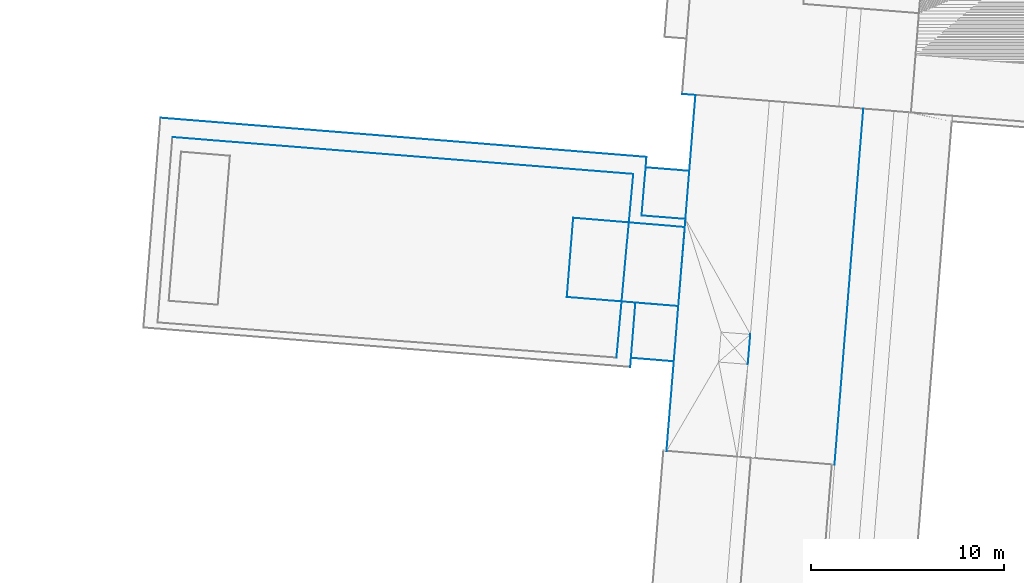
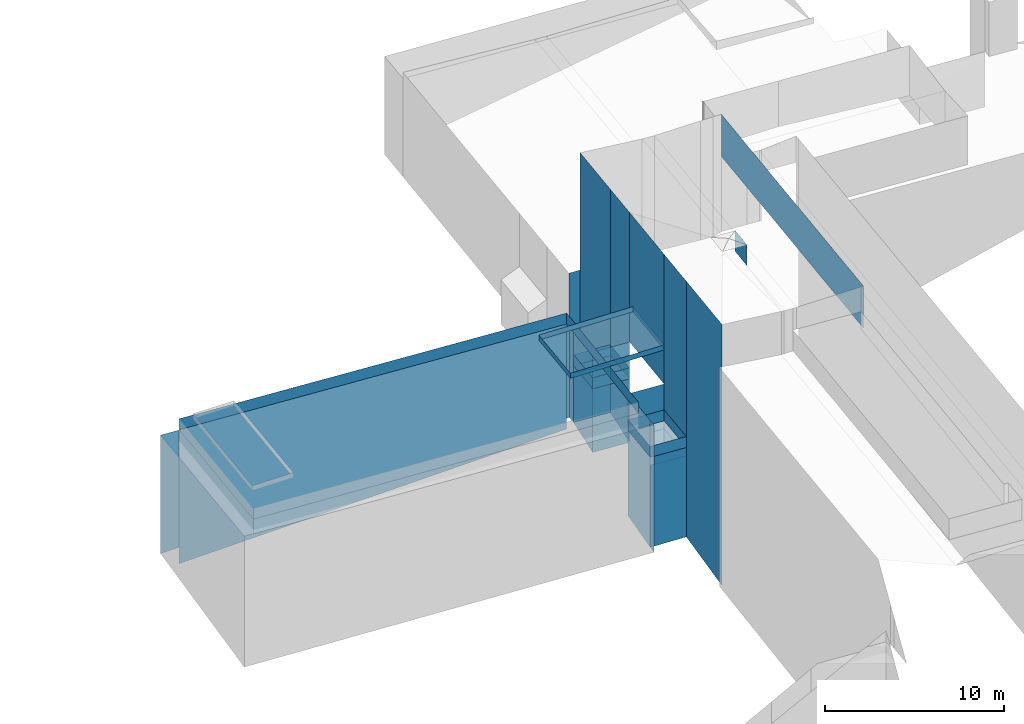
# Not in any storey, part 77 of 136: 54 walls.
"""IFC4 building model written with IfcOpenShell, lengths in metres."""

import ifcopenshell
import ifcopenshell.guid

model = None  # the IFC model being written
_history = None  # IfcOwnerHistory: only IFC2X3 demands one
_inside = {}  # id of a spatial element -> (the spatial element, [elements in it])
_under = {}  # id of a project, library or spatial element -> (it, [spatial elements below it])
_declared = {}  # id of a project -> (the project, [libraries it declares])
_typed = {}  # id of a type object -> (the type object, [elements of that type])
_made_of = {}  # id of a material, layer set ... -> (it, [elements and type objects made of it])


def new_model(schema):
    """Start an empty IFC model of exactly this schema.

    Asked for "IFC4X3", IfcOpenShell would pick the latest addendum, in which some entities
    have other attributes; the version numbers below select the first issue.
    IFC2X3 requires an IfcOwnerHistory on every rooted entity: one is made here for all.
    """
    global model, _history
    if schema == "IFC4X3":
        model = ifcopenshell.file(schema_version=(4, 3, 0, 0))
    else:
        model = ifcopenshell.file(schema=schema)
    _inside.clear()
    _under.clear()
    _declared.clear()
    _typed.clear()
    _made_of.clear()
    _history = None
    if model.schema == "IFC2X3":
        org = make("IfcOrganization", Name="unknown")
        user = make(
            "IfcPersonAndOrganization",
            ThePerson=make("IfcPerson", FamilyName="unknown"),
            TheOrganization=org,
        )
        app = make(
            "IfcApplication",
            ApplicationDeveloper=org,
            Version="unknown",
            ApplicationFullName="unknown",
            ApplicationIdentifier="unknown",
        )
        _history = make(
            "IfcOwnerHistory",
            OwningUser=user,
            OwningApplication=app,
            ChangeAction="ADDED",
            CreationDate=0,
        )
    return model


def make(cls, **values):
    """One entity of the class cls with the attributes given. An attribute that is None is left unset."""
    return model.create_entity(
        cls, **{name: value for name, value in values.items() if value is not None}
    )


def entity(cls, *values):
    """Any entity or typed value of the class cls, its attributes in the order of the schema. None: left unset."""
    e = model.create_entity(cls)
    for i, value in enumerate(values):
        if value is not None:
            e[i] = value
    return e


def rooted(cls, **values):
    """An entity with a GlobalId (a new one), such as an element, a storey or a relation."""
    return make(cls, GlobalId=ifcopenshell.guid.new(), OwnerHistory=_history, **values)


def si_unit(unit_type, name, prefix=None):
    """IfcSIUnit, for example si_unit("LENGTHUNIT", "METRE", prefix="MILLI")."""
    return make("IfcSIUnit", UnitType=unit_type, Prefix=prefix, Name=name)


def converted_unit(unit_type, name, factor, base, dimensions=None, offset=None):
    """IfcConversionBasedUnit, such as the inch: factor (a typed value) times the base unit."""
    return make(
        "IfcConversionBasedUnit"
        if offset is None
        else "IfcConversionBasedUnitWithOffset",
        ConversionOffset=offset,
        Dimensions=None
        if dimensions is None
        else entity("IfcDimensionalExponents", *dimensions),
        UnitType=unit_type,
        Name=name,
        ConversionFactor=make(
            "IfcMeasureWithUnit", ValueComponent=factor, UnitComponent=base
        ),
    )


def assignment(units):
    """IfcUnitAssignment: the units of a project."""
    return None if units is None else make("IfcUnitAssignment", Units=units)


def point(xyz):
    """IfcCartesianPoint."""
    return None if xyz is None else make("IfcCartesianPoint", Coordinates=xyz)


def direction(xyz):
    """IfcDirection."""
    return None if xyz is None else make("IfcDirection", DirectionRatios=xyz)


def frame(location, z_axis=None, x_axis=None):
    """IfcAxis2Placement3D, a coordinate frame: its origin and axes. An axis left out is left unset."""
    return make(
        "IfcAxis2Placement3D",
        Location=point(location),
        Axis=direction(z_axis),
        RefDirection=direction(x_axis),
    )


def origin():
    """The frame at (0, 0, 0) with its axes left unset."""
    return frame((0.0, 0.0, 0.0))


def place(relative_to, where):
    """IfcLocalPlacement: puts the frame where relative to a parent placement (None: the world)."""
    return make(
        "IfcLocalPlacement", PlacementRelTo=relative_to, RelativePlacement=where
    )


def context(
    kind, dimensions, precision=None, world=None, true_north=None, identifier=None
):
    """IfcGeometricRepresentationContext, for example the 3D "Model" context."""
    return make(
        "IfcGeometricRepresentationContext",
        ContextIdentifier=identifier,
        ContextType=kind,
        CoordinateSpaceDimension=dimensions,
        Precision=precision,
        WorldCoordinateSystem=world,
        TrueNorth=true_north,
    )


def subcontext(parent, identifier, kind, view, scale=None):
    """IfcGeometricRepresentationSubContext, for example "Body" below "Model"."""
    return make(
        "IfcGeometricRepresentationSubContext",
        ContextIdentifier=identifier,
        ContextType=kind,
        ParentContext=parent,
        TargetScale=scale,
        TargetView=view,
    )


def project(units=None, contexts=None):
    """IfcProject with its units and contexts."""
    return rooted(
        "IfcProject",
        Name="project",
        RepresentationContexts=contexts,
        UnitsInContext=assignment(units),
    )


def spatial(cls, under=None, at=None, **own):
    """A site, building, storey or space (cls), placed at a placement, below another one or the project."""
    s = rooted(cls, ObjectPlacement=at, **own)
    if under is not None:
        _under.setdefault(under.id(), (under, []))[1].append(s)
    return s


def faces_of(points, faces, orient=None, outer=None):
    """IfcFace entities. A face is a list of loops; a loop is a list of indices into points, from 0.

    orient and outer hold one flag for each loop. By default every Orientation is true, the
    first loop of a face is its IfcFaceOuterBound and the others are IfcFaceBound.
    """
    made = []
    for i, loops in enumerate(faces):
        bounds = []
        for j, loop in enumerate(loops):
            is_outer = j == 0 if outer is None else outer[i][j]
            bounds.append(
                make(
                    "IfcFaceOuterBound" if is_outer else "IfcFaceBound",
                    Bound=make("IfcPolyLoop", Polygon=[points[k] for k in loop]),
                    Orientation=True if orient is None else orient[i][j],
                )
            )
        made.append(make("IfcFace", Bounds=bounds))
    return made


def face_set(faces, orient=None, outer=None):
    """The faces of one IfcConnectedFaceSet. surface_model builds it on its shared points."""
    return ("IfcConnectedFaceSet", faces, orient, outer)


def surface_model(cls, points, shells):
    """IfcFaceBasedSurfaceModel or IfcShellBasedSurfaceModel (cls): surfaces that need not close."""
    shared = [point(p) for p in points]
    made = [make(c, CfsFaces=faces_of(shared, fs, o, b)) for c, fs, o, b in shells]
    if cls == "IfcFaceBasedSurfaceModel":
        return make(cls, FbsmFaces=made)
    return make(cls, SbsmBoundary=made)


def shape(context_of_items, identifier, shape_type, items):
    """IfcShapeRepresentation: the items that make up one representation, for example the "Body"."""
    return make(
        "IfcShapeRepresentation",
        ContextOfItems=context_of_items,
        RepresentationIdentifier=identifier,
        RepresentationType=shape_type,
        Items=items,
    )


def made_of(thing, what):
    """Note that an element or type object is made of a material, layer set ...; save() writes the relation."""
    if what is not None:
        _made_of.setdefault(what.id(), (what, []))[1].append(thing)
    return thing


def element(
    cls,
    number,
    at=None,
    inside=None,
    cuts=None,
    type_object=None,
    material=None,
    context=None,
    identifier="Body",
    shape_type=None,
    held_by="IfcProductDefinitionShape",
    body=None,
    shapes=None,
    **own,
):
    """One element of the class cls, such as IfcWall. Its Tag is "e" and its number.

    at: its placement. inside: the storey or other place that contains it. cuts: it is an
    opening in that element (IfcRelVoidsElement). A single representation is given by context,
    identifier, shape_type and body (its items); several are given by shapes. held_by: the class
    of the entity that holds the representations. save() writes the other relations.
    """
    e = rooted(cls, Tag="e%d" % number, ObjectPlacement=at, **own)
    if body is not None:
        shapes = [shape(context, identifier, shape_type, body)]
    if shapes is not None:
        e.Representation = make(held_by, Representations=shapes)
    if inside is not None:
        _inside.setdefault(inside.id(), (inside, []))[1].append(e)
    if cuts is not None:
        rooted(
            "IfcRelVoidsElement", RelatingBuildingElement=cuts, RelatedOpeningElement=e
        )
    if type_object is not None:
        _typed.setdefault(type_object.id(), (type_object, []))[1].append(e)
    return made_of(e, material)


def aggregate(whole, parts):
    """IfcRelAggregates: a whole, such as a stair, and the parts it consists of."""
    return rooted("IfcRelAggregates", RelatingObject=whole, RelatedObjects=parts)


def save(model, path):
    """Write the relations noted so far, then the file.

    IfcRelAggregates (storeys below a building ...), IfcRelContainedInSpatialStructure (elements
    in a storey), IfcRelDefinesByType, IfcRelAssociatesMaterial and IfcRelDeclares: one each for
    every whole, place, type object, material and project.
    """
    for whole, parts in _under.values():
        aggregate(whole, parts)
    for where, things in _inside.values():
        rooted(
            "IfcRelContainedInSpatialStructure",
            RelatedElements=things,
            RelatingStructure=where,
        )
    for kind, things in _typed.values():
        rooted("IfcRelDefinesByType", RelatedObjects=things, RelatingType=kind)
    for what, things in _made_of.values():
        rooted("IfcRelAssociatesMaterial", RelatedObjects=things, RelatingMaterial=what)
    for by, libraries in _declared.values():
        rooted("IfcRelDeclares", RelatingContext=by, RelatedDefinitions=libraries)
    model.write(path)


model = new_model("IFC4")

# Units and contexts
model_context = context("Model", 3, precision=1e-05, world=origin())
body_context = subcontext(model_context, "Body", "Model", "MODEL_VIEW")
ifc_project = project(units=[converted_unit("PLANEANGLEUNIT", "DEGREE", entity("IfcRatioMeasure", 0.0174532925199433), si_unit("PLANEANGLEUNIT", "RADIAN"), dimensions=[0, 0, 0, 0, 0, 0, 0]), si_unit("AREAUNIT", "SQUARE_METRE"), si_unit("LENGTHUNIT", "METRE")], contexts=[model_context])

# Site, building
site_placement = place(None, origin())
site = spatial("IfcSite", under=ifc_project, at=site_placement, Name="_site")
building_1_placement = place(site_placement, origin())
building_1 = spatial("IfcBuilding", under=site, at=building_1_placement, Name="_building")

# Walls
wall_1_placement = place(building_1_placement, origin())
element("IfcWall", 1, at=wall_1_placement, inside=building_1, Name="Wall", PredefinedType="NOTDEFINED", context=body_context, shape_type="SurfaceModel", body=[
    surface_model("IfcFaceBasedSurfaceModel", [(213.47, 95.97, 44.89), (215.69, 95.79, 44.89), (215.69, 95.79, 45.64), (213.47, 95.97, 45.64)], [face_set([[[0, 1, 2, 3]]])]),
])
for number, where, name in (
    (2, (0.0, 0.0, 0.0), "Wall"),
    (3, (0.0, 0.0, 0.0), "Wall"),
):
    element("IfcWall", number, at=place(building_1_placement, frame(where)), inside=building_1, Name=name, PredefinedType="NOTDEFINED", context=body_context, shape_type="SurfaceModel", body=[
        surface_model("IfcFaceBasedSurfaceModel", [(213.36, 102.63, 48.15), (212.49, 93.12, 48.15), (212.49, 93.12, 48.9), (213.36, 102.63, 48.9)], [face_set([[[0, 1, 2, 3]]])]),
    ])
wall_2_placement = place(building_1_placement, origin())
element("IfcWall", 4, at=wall_2_placement, inside=building_1, Name="Wall", PredefinedType="NOTDEFINED", context=body_context, shape_type="SurfaceModel", body=[
    surface_model("IfcFaceBasedSurfaceModel", [(215.69, 95.79, 56.22), (216.06, 100.3, 56.22), (216.06, 100.3, 47.4), (215.69, 95.79, 47.4)], [face_set([[[0, 1, 2, 3]]])]),
])

# Building
building_2_placement = place(site_placement, origin())
building_2 = spatial("IfcBuilding", under=site, at=building_2_placement, Name="_building")

# Walls
wall_3_placement = place(building_2_placement, origin())
element("IfcWall", 5, at=wall_3_placement, inside=building_2, Name="Wall", PredefinedType="NOTDEFINED", context=body_context, shape_type="SurfaceModel", body=[
    surface_model("IfcFaceBasedSurfaceModel", [(216.26, 102.79, 56.22), (216.58, 106.72, 56.22), (216.58, 106.72, 41.033), (216.26, 102.79, 41.011)], [face_set([[[0, 1, 2, 3]]])]),
])
wall_4_placement = place(building_2_placement, origin())
element("IfcWall", 6, at=wall_4_placement, inside=building_2, Name="Wall", PredefinedType="NOTDEFINED", context=body_context, shape_type="SurfaceModel", body=[
    surface_model("IfcFaceBasedSurfaceModel", [(213.79, 100.48, 47.4), (216.06, 100.3, 47.4), (216.06, 100.3, 44.36), (213.79, 100.48, 44.36)], [face_set([[[0, 1, 2, 3]]])]),
])
wall_5_placement = place(building_2_placement, origin())
element("IfcWall", 7, at=wall_5_placement, inside=building_2, Name="Wall", PredefinedType="NOTDEFINED", context=body_context, shape_type="SurfaceModel", body=[
    surface_model("IfcFaceBasedSurfaceModel", [(214.0, 102.97, 44.36), (216.26, 102.79, 44.36), (216.26, 102.79, 41.011), (214.0, 102.97, 41.016)], [face_set([[[0, 1, 2, 3]]])]),
])
wall_6_placement = place(building_2_placement, origin())
element("IfcWall", 8, at=wall_6_placement, inside=building_2, Name="Wall", PredefinedType="NOTDEFINED", context=body_context, shape_type="SurfaceModel", body=[
    surface_model("IfcFaceBasedSurfaceModel", [(214.0, 102.97, 44.89), (216.26, 102.79, 44.89), (216.26, 102.79, 45.64), (214.0, 102.97, 45.64)], [face_set([[[0, 1, 2, 3]]])]),
])
wall_7_placement = place(building_2_placement, origin())
element("IfcWall", 9, at=wall_7_placement, inside=building_2, Name="Wall", PredefinedType="NOTDEFINED", context=body_context, shape_type="SurfaceModel", body=[
    surface_model("IfcFaceBasedSurfaceModel", [(214.0, 102.97, 47.4), (213.79, 100.48, 47.4), (213.79, 100.48, 44.36), (214.0, 102.97, 44.36)], [face_set([[[0, 1, 2, 3]]])]),
])
wall_8_placement = place(building_2_placement, origin())
element("IfcWall", 10, at=wall_8_placement, inside=building_2, Name="Wall", PredefinedType="NOTDEFINED", context=body_context, shape_type="SurfaceModel", body=[
    surface_model("IfcFaceBasedSurfaceModel", [(213.47, 95.97, 44.89), (215.69, 95.79, 44.89), (215.69, 95.79, 45.64), (213.47, 95.97, 45.64)], [face_set([[[0, 1, 2, 3]]])]),
])
wall_9_placement = place(building_2_placement, origin())
element("IfcWall", 11, at=wall_9_placement, inside=building_2, Name="Wall", PredefinedType="NOTDEFINED", context=body_context, shape_type="SurfaceModel", body=[
    surface_model("IfcFaceBasedSurfaceModel", [(213.24, 93.11, 44.89), (213.47, 95.97, 44.89), (213.47, 95.97, 45.64), (213.24, 93.11, 45.64)], [face_set([[[0, 1, 2, 3]]])]),
])
wall_10_placement = place(building_2_placement, origin())
element("IfcWall", 12, at=wall_10_placement, inside=building_2, Name="Wall", PredefinedType="NOTDEFINED", context=body_context, shape_type="SurfaceModel", body=[
    surface_model("IfcFaceBasedSurfaceModel", [(215.69, 95.79, 44.89), (215.46, 92.93, 44.89), (215.46, 92.93, 45.64), (215.69, 95.79, 45.64)], [face_set([[[0, 1, 2, 3]]])]),
])
wall_11_placement = place(building_2_placement, origin())
element("IfcWall", 13, at=wall_11_placement, inside=building_2, Name="Wall", PredefinedType="NOTDEFINED", context=body_context, shape_type="SurfaceModel", body=[
    surface_model("IfcFaceBasedSurfaceModel", [(215.46, 92.93, 44.89), (213.24, 93.11, 44.89), (213.24, 93.11, 45.64), (215.46, 92.93, 45.64)], [face_set([[[0, 1, 2, 3]]])]),
])
wall_12_placement = place(building_2_placement, origin())
element("IfcWall", 14, at=wall_12_placement, inside=building_2, Name="Wall", PredefinedType="NOTDEFINED", context=body_context, shape_type="SurfaceModel", body=[
    surface_model("IfcFaceBasedSurfaceModel", [(215.69, 95.79, 50.07), (209.92, 96.26, 49.87), (209.92, 96.26, 49.52), (215.69, 95.79, 49.72)], [face_set([[[0, 1, 2, 3]]])]),
])
wall_13_placement = place(building_2_placement, origin())
element("IfcWall", 15, at=wall_13_placement, inside=building_2, Name="Wall", PredefinedType="NOTDEFINED", context=body_context, shape_type="SurfaceModel", body=[
    surface_model("IfcFaceBasedSurfaceModel", [(215.69, 95.79, 44.89), (215.46, 92.93, 44.89), (215.46, 92.93, 45.64), (215.69, 95.79, 45.64)], [face_set([[[0, 1, 2, 3]]])]),
])
wall_14_placement = place(building_2_placement, origin())
element("IfcWall", 16, at=wall_14_placement, inside=building_2, Name="Wall", PredefinedType="NOTDEFINED", context=body_context, shape_type="SurfaceModel", body=[
    surface_model("IfcFaceBasedSurfaceModel", [(216.06, 100.3, 56.22), (216.26, 102.79, 56.22), (216.26, 102.79, 44.36), (216.06, 100.3, 44.36)], [face_set([[[0, 1, 2, 3]]])]),
])
wall_15_placement = place(building_2_placement, origin())
element("IfcWall", 17, at=wall_15_placement, inside=building_2, Name="Wall", PredefinedType="NOTDEFINED", context=body_context, shape_type="SurfaceModel", body=[
    surface_model("IfcFaceBasedSurfaceModel", [(213.24, 93.11, 44.89), (213.47, 95.97, 44.89), (213.47, 95.97, 45.64), (213.24, 93.11, 45.64)], [face_set([[[0, 1, 2, 3]]])]),
])
wall_16_placement = place(building_2_placement, origin())
element("IfcWall", 18, at=wall_16_placement, inside=building_2, Name="Wall", PredefinedType="NOTDEFINED", context=body_context, shape_type="SurfaceModel", body=[
    surface_model("IfcFaceBasedSurfaceModel", [(210.25, 100.36, 49.87), (216.03, 99.88, 50.07), (216.03, 99.88, 49.72), (210.25, 100.36, 49.52)], [face_set([[[0, 1, 2, 3]]])]),
])
wall_17_placement = place(building_2_placement, origin())
element("IfcWall", 19, at=wall_17_placement, inside=building_2, Name="Wall", PredefinedType="NOTDEFINED", context=body_context, shape_type="SurfaceModel", body=[
    surface_model("IfcFaceBasedSurfaceModel", [(215.46, 92.93, 56.22), (215.69, 95.79, 56.22), (215.69, 95.79, 44.36), (215.46, 92.93, 44.36)], [face_set([[[0, 1, 2, 3]]])]),
])
wall_18_placement = place(building_2_placement, origin())
element("IfcWall", 20, at=wall_18_placement, inside=building_2, Name="Wall", PredefinedType="NOTDEFINED", context=body_context, shape_type="SurfaceModel", body=[
    surface_model("IfcFaceBasedSurfaceModel", [(225.27, 106.01, 56.22), (223.78, 87.58, 56.22), (223.78, 87.58, 53.35), (225.27, 106.01, 53.35)], [face_set([[[0, 1, 2, 3]]])]),
])
wall_19_placement = place(building_2_placement, origin())
element("IfcWall", 21, at=wall_19_placement, inside=building_2, Name="Wall", PredefinedType="NOTDEFINED", context=body_context, shape_type="SurfaceModel", body=[
    surface_model("IfcFaceBasedSurfaceModel", [(215.46, 92.93, 44.36), (213.24, 93.11, 44.36), (213.24, 93.11, 38.766), (215.46, 92.93, 38.81)], [face_set([[[0, 1, 2, 3]]])]),
])
wall_20_placement = place(building_2_placement, origin())
element("IfcWall", 22, at=wall_20_placement, inside=building_2, Name="Wall", PredefinedType="NOTDEFINED", context=body_context, shape_type="SurfaceModel", body=[
    surface_model("IfcFaceBasedSurfaceModel", [(189.5, 104.54, 48.15), (213.36, 102.63, 48.15), (213.36, 102.63, 48.9), (189.5, 104.54, 48.9)], [face_set([[[0, 1, 2, 3]]])]),
])
wall_21_placement = place(building_2_placement, origin())
element("IfcWall", 23, at=wall_21_placement, inside=building_2, Name="Wall", PredefinedType="NOTDEFINED", context=body_context, shape_type="SurfaceModel", body=[
    surface_model("IfcFaceBasedSurfaceModel", [(215.69, 95.79, 47.4), (213.47, 95.97, 47.4), (213.47, 95.97, 44.36), (215.69, 95.79, 44.36)], [face_set([[[0, 1, 2, 3]]])]),
])
wall_22_placement = place(building_2_placement, origin())
element("IfcWall", 24, at=wall_22_placement, inside=building_2, Name="Wall", PredefinedType="NOTDEFINED", context=body_context, shape_type="SurfaceModel", body=[
    surface_model("IfcFaceBasedSurfaceModel", [(213.24, 93.11, 47.4), (213.2, 92.64, 47.4), (213.2, 92.64, 38.723), (213.24, 93.11, 38.766)], [face_set([[[0, 1, 2, 3]]])]),
])
wall_23_placement = place(building_2_placement, origin())
element("IfcWall", 25, at=wall_23_placement, inside=building_2, Name="Wall", PredefinedType="NOTDEFINED", context=body_context, shape_type="SurfaceModel", body=[
    surface_model("IfcFaceBasedSurfaceModel", [(188.88, 105.54, 47.4), (214.04, 103.51, 47.4), (214.04, 103.51, 41.024), (188.88, 105.54, 39.327)], [face_set([[[0, 1, 2, 3]]])]),
])
wall_24_placement = place(building_2_placement, origin())
element("IfcWall", 26, at=wall_24_placement, inside=building_2, Name="Wall", PredefinedType="NOTDEFINED", context=body_context, shape_type="SurfaceModel", body=[
    surface_model("IfcFaceBasedSurfaceModel", [(210.25, 100.36, 49.87), (216.03, 99.88, 50.07), (216.03, 99.88, 49.72), (210.25, 100.36, 49.52)], [face_set([[[0, 1, 2, 3]]])]),
])
wall_25_placement = place(building_2_placement, origin())
element("IfcWall", 27, at=wall_25_placement, inside=building_2, Name="Wall", PredefinedType="NOTDEFINED", context=body_context, shape_type="SurfaceModel", body=[
    surface_model("IfcFaceBasedSurfaceModel", [(215.46, 92.93, 44.89), (213.24, 93.11, 44.89), (213.24, 93.11, 38.766), (215.46, 92.93, 38.81)], [face_set([[[0, 1, 2, 3]]])]),
])
wall_26_placement = place(building_2_placement, origin())
element("IfcWall", 28, at=wall_26_placement, inside=building_2, Name="Wall", PredefinedType="NOTDEFINED", context=body_context, shape_type="SurfaceModel", body=[
    surface_model("IfcFaceBasedSurfaceModel", [(213.79, 100.48, 44.89), (214.0, 102.97, 44.89), (214.0, 102.97, 45.64), (213.79, 100.48, 45.64)], [face_set([[[0, 1, 2, 3]]])]),
])
wall_27_placement = place(building_2_placement, origin())
element("IfcWall", 29, at=wall_27_placement, inside=building_2, Name="Wall", PredefinedType="NOTDEFINED", context=body_context, shape_type="SurfaceModel", body=[
    surface_model("IfcFaceBasedSurfaceModel", [(216.58, 106.72, 48.22), (215.89, 106.771, 48.22), (215.89, 106.771, 41.04), (216.58, 106.72, 41.033)], [face_set([[[0, 1, 2, 3]]])]),
])
wall_28_placement = place(building_2_placement, origin())
element("IfcWall", 30, at=wall_28_placement, inside=building_2, Name="Wall", PredefinedType="NOTDEFINED", context=body_context, shape_type="SurfaceModel", body=[
    surface_model("IfcFaceBasedSurfaceModel", [(216.06, 100.3, 44.89), (213.79, 100.48, 44.89), (213.79, 100.48, 45.64), (216.06, 100.3, 45.64)], [face_set([[[0, 1, 2, 3]]])]),
])
wall_29_placement = place(building_2_placement, origin())
element("IfcWall", 31, at=wall_29_placement, inside=building_2, Name="Wall", PredefinedType="NOTDEFINED", context=body_context, shape_type="SurfaceModel", body=[
    surface_model("IfcFaceBasedSurfaceModel", [(215.69, 95.79, 50.07), (209.92, 96.26, 49.87), (209.92, 96.26, 49.52), (215.69, 95.79, 49.72)], [face_set([[[0, 1, 2, 3]]])]),
])
wall_30_placement = place(building_2_placement, origin())
element("IfcWall", 32, at=wall_30_placement, inside=building_2, Name="Wall", PredefinedType="NOTDEFINED", context=body_context, shape_type="SurfaceModel", body=[
    surface_model("IfcFaceBasedSurfaceModel", [(216.26, 102.79, 44.89), (216.06, 100.3, 44.89), (216.06, 100.3, 45.64), (216.26, 102.79, 45.64)], [face_set([[[0, 1, 2, 3]]])]),
])
wall_31_placement = place(building_2_placement, origin())
element("IfcWall", 33, at=wall_31_placement, inside=building_2, Name="Wall", PredefinedType="NOTDEFINED", context=body_context, shape_type="SurfaceModel", body=[
    surface_model("IfcFaceBasedSurfaceModel", [(216.06, 100.3, 44.89), (213.79, 100.48, 44.89), (213.79, 100.48, 45.64), (216.06, 100.3, 45.64)], [face_set([[[0, 1, 2, 3]]])]),
])
wall_32_placement = place(building_2_placement, origin())
element("IfcWall", 34, at=wall_32_placement, inside=building_2, Name="Wall", PredefinedType="NOTDEFINED", context=body_context, shape_type="SurfaceModel", body=[
    surface_model("IfcFaceBasedSurfaceModel", [(216.26, 102.79, 44.89), (216.06, 100.3, 44.89), (216.06, 100.3, 45.64), (216.26, 102.79, 45.64)], [face_set([[[0, 1, 2, 3]]])]),
])
wall_33_placement = place(building_2_placement, origin())
element("IfcWall", 35, at=wall_33_placement, inside=building_2, Name="Wall", PredefinedType="NOTDEFINED", context=body_context, shape_type="SurfaceModel", body=[
    surface_model("IfcFaceBasedSurfaceModel", [(214.0, 102.97, 44.89), (216.26, 102.79, 44.89), (216.26, 102.79, 45.64), (214.0, 102.97, 45.64)], [face_set([[[0, 1, 2, 3]]])]),
])
wall_34_placement = place(building_2_placement, origin())
element("IfcWall", 36, at=wall_34_placement, inside=building_2, Name="Wall", PredefinedType="NOTDEFINED", context=body_context, shape_type="SurfaceModel", body=[
    surface_model("IfcFaceBasedSurfaceModel", [(189.5, 104.54, 48.15), (213.36, 102.63, 48.15), (213.36, 102.63, 48.9), (189.5, 104.54, 48.9)], [face_set([[[0, 1, 2, 3]]])]),
])
wall_35_placement = place(building_2_placement, origin())
element("IfcWall", 37, at=wall_35_placement, inside=building_2, Name="Wall", PredefinedType="NOTDEFINED", context=body_context, shape_type="SurfaceModel", body=[
    surface_model("IfcFaceBasedSurfaceModel", [(216.06, 100.3, 44.89), (213.79, 100.48, 44.89), (213.79, 100.48, 40.557), (216.06, 100.3, 40.562)], [face_set([[[0, 1, 2, 3]]])]),
])
wall_36_placement = place(building_2_placement, origin())
element("IfcWall", 38, at=wall_36_placement, inside=building_2, Name="Wall", PredefinedType="NOTDEFINED", context=body_context, shape_type="SurfaceModel", body=[
    surface_model("IfcFaceBasedSurfaceModel", [(213.79, 100.48, 44.89), (214.0, 102.97, 44.89), (214.0, 102.97, 45.64), (213.79, 100.48, 45.64)], [face_set([[[0, 1, 2, 3]]])]),
])
wall_37_placement = place(building_2_placement, origin())
element("IfcWall", 39, at=wall_37_placement, inside=building_2, Name="Wall", PredefinedType="NOTDEFINED", context=body_context, shape_type="SurfaceModel", body=[
    surface_model("IfcFaceBasedSurfaceModel", [(216.26, 102.79, 44.89), (216.06, 100.3, 44.89), (216.06, 100.3, 40.562), (216.26, 102.79, 41.011)], [face_set([[[0, 1, 2, 3]]])]),
])
wall_38_placement = place(building_2_placement, origin())
element("IfcWall", 40, at=wall_38_placement, inside=building_2, Name="Wall", PredefinedType="NOTDEFINED", context=body_context, shape_type="SurfaceModel", body=[
    surface_model("IfcFaceBasedSurfaceModel", [(213.47, 95.97, 47.4), (213.24, 93.11, 47.4), (213.24, 93.11, 44.36), (213.47, 95.97, 44.36)], [face_set([[[0, 1, 2, 3]]])]),
])
wall_39_placement = place(building_2_placement, origin())
element("IfcWall", 41, at=wall_39_placement, inside=building_2, Name="Wall", PredefinedType="NOTDEFINED", context=body_context, shape_type="SurfaceModel", body=[
    surface_model("IfcFaceBasedSurfaceModel", [(213.24, 93.11, 44.89), (213.47, 95.97, 44.89), (213.47, 95.97, 39.09), (213.24, 93.11, 38.766)], [face_set([[[0, 1, 2, 3]]])]),
])
wall_40_placement = place(building_2_placement, origin())
element("IfcWall", 42, at=wall_40_placement, inside=building_2, Name="Wall", PredefinedType="NOTDEFINED", context=body_context, shape_type="SurfaceModel", body=[
    surface_model("IfcFaceBasedSurfaceModel", [(214.0, 102.97, 44.89), (216.26, 102.79, 44.89), (216.26, 102.79, 41.011), (214.0, 102.97, 41.016)], [face_set([[[0, 1, 2, 3]]])]),
])
wall_41_placement = place(building_2_placement, origin())
element("IfcWall", 43, at=wall_41_placement, inside=building_2, Name="Wall", PredefinedType="NOTDEFINED", context=body_context, shape_type="SurfaceModel", body=[
    surface_model("IfcFaceBasedSurfaceModel", [(214.04, 103.51, 47.4), (214.0, 102.97, 47.4), (214.0, 102.97, 41.016), (214.04, 103.51, 41.024)], [face_set([[[0, 1, 2, 3]]])]),
])
wall_42_placement = place(building_2_placement, origin())
element("IfcWall", 44, at=wall_42_placement, inside=building_2, Name="Wall", PredefinedType="NOTDEFINED", context=body_context, shape_type="SurfaceModel", body=[
    surface_model("IfcFaceBasedSurfaceModel", [(189.5, 104.54, 48.15), (213.36, 102.63, 48.15), (213.36, 102.63, 41.01), (189.5, 104.54, 39.03)], [face_set([[[0, 1, 2, 3]]])]),
])
wall_43_placement = place(building_2_placement, origin())
element("IfcWall", 45, at=wall_43_placement, inside=building_2, Name="Wall", PredefinedType="NOTDEFINED", context=body_context, shape_type="SurfaceModel", body=[
    surface_model("IfcFaceBasedSurfaceModel", [(213.47, 95.97, 44.89), (215.69, 95.79, 44.89), (215.69, 95.79, 39.153), (213.47, 95.97, 39.09)], [face_set([[[0, 1, 2, 3]]])]),
])
wall_44_placement = place(building_2_placement, origin())
element("IfcWall", 46, at=wall_44_placement, inside=building_2, Name="Wall", PredefinedType="NOTDEFINED", context=body_context, shape_type="SurfaceModel", body=[
    surface_model("IfcFaceBasedSurfaceModel", [(215.46, 92.93, 44.89), (213.24, 93.11, 44.89), (213.24, 93.11, 45.64), (215.46, 92.93, 45.64)], [face_set([[[0, 1, 2, 3]]])]),
])
wall_45_placement = place(building_2_placement, origin())
element("IfcWall", 47, at=wall_45_placement, inside=building_2, Name="Wall", PredefinedType="NOTDEFINED", context=body_context, shape_type="SurfaceModel", body=[
    surface_model("IfcFaceBasedSurfaceModel", [(216.03, 99.88, 50.07), (215.69, 95.79, 50.07), (215.69, 95.79, 49.72), (216.03, 99.88, 49.72)], [face_set([[[0, 1, 2, 3]]])]),
])
wall_46_placement = place(building_2_placement, origin())
element("IfcWall", 48, at=wall_46_placement, inside=building_2, Name="Wall", PredefinedType="NOTDEFINED", context=body_context, shape_type="SurfaceModel", body=[
    surface_model("IfcFaceBasedSurfaceModel", [(209.92, 96.26, 49.87), (210.25, 100.36, 49.87), (210.25, 100.36, 49.52), (209.92, 96.26, 49.52)], [face_set([[[0, 1, 2, 3]]])]),
])
wall_47_placement = place(building_2_placement, origin())
element("IfcWall", 49, at=wall_47_placement, inside=building_2, Name="Wall", PredefinedType="NOTDEFINED", context=body_context, shape_type="SurfaceModel", body=[
    surface_model("IfcFaceBasedSurfaceModel", [(219.42, 94.33, 57.43), (219.29, 92.78, 57.43), (219.29, 92.78, 56.01), (219.42, 94.33, 56.01)], [face_set([[[0, 1, 2, 3]]])]),
])
wall_48_placement = place(building_2_placement, origin())
element("IfcWall", 50, at=wall_48_placement, inside=building_2, Name="Wall", PredefinedType="NOTDEFINED", context=body_context, shape_type="SurfaceModel", body=[
    surface_model("IfcFaceBasedSurfaceModel", [(215.08, 88.29, 56.22), (215.46, 92.93, 56.22), (215.46, 92.93, 38.81), (215.08, 88.29, 38.442)], [face_set([[[0, 1, 2, 3]]])]),
])
wall_49_placement = place(building_2_placement, origin())
element("IfcWall", 51, at=wall_49_placement, inside=building_2, Name="Wall", PredefinedType="NOTDEFINED", context=body_context, shape_type="SurfaceModel", body=[
    surface_model("IfcFaceBasedSurfaceModel", [(209.92, 96.26, 49.87), (210.25, 100.36, 49.87), (210.25, 100.36, 49.52), (209.92, 96.26, 49.52)], [face_set([[[0, 1, 2, 3]]])]),
])
wall_50_placement = place(building_2_placement, origin())
element("IfcWall", 52, at=wall_50_placement, inside=building_2, Name="Wall", PredefinedType="NOTDEFINED", context=body_context, shape_type="SurfaceModel", body=[
    surface_model("IfcFaceBasedSurfaceModel", [(213.79, 100.48, 44.89), (214.0, 102.97, 44.89), (214.0, 102.97, 41.016), (213.79, 100.48, 40.557)], [face_set([[[0, 1, 2, 3]]])]),
])
wall_51_placement = place(building_2_placement, origin())
element("IfcWall", 53, at=wall_51_placement, inside=building_2, Name="Wall", PredefinedType="NOTDEFINED", context=body_context, shape_type="SurfaceModel", body=[
    surface_model("IfcFaceBasedSurfaceModel", [(215.69, 95.79, 44.89), (215.46, 92.93, 44.89), (215.46, 92.93, 38.81), (215.69, 95.79, 39.153)], [face_set([[[0, 1, 2, 3]]])]),
])
wall_52_placement = place(building_2_placement, origin())
element("IfcWall", 54, at=wall_52_placement, inside=building_2, Name="Wall", PredefinedType="NOTDEFINED", context=body_context, shape_type="SurfaceModel", body=[
    surface_model("IfcFaceBasedSurfaceModel", [(216.03, 99.88, 50.07), (215.69, 95.79, 50.07), (215.69, 95.79, 49.72), (216.03, 99.88, 49.72)], [face_set([[[0, 1, 2, 3]]])]),
])

save(model, "model.ifc")
